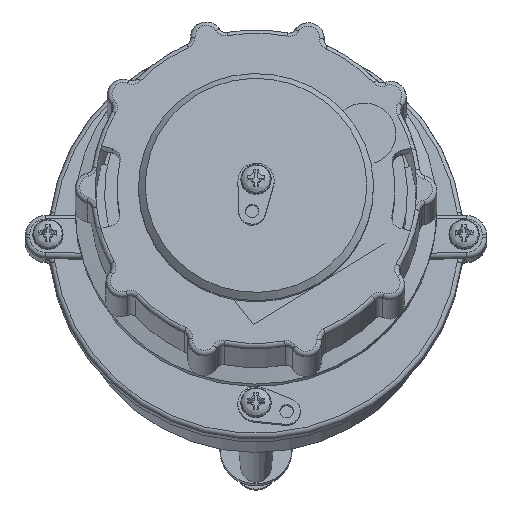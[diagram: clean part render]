
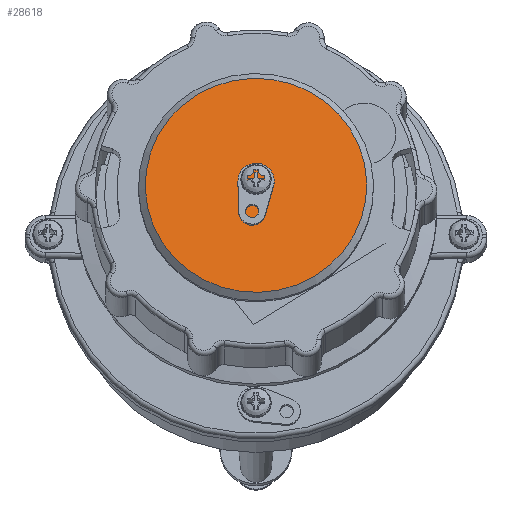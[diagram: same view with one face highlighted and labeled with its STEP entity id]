
A CAD part, front view. The second image highlights one B-rep face of the part: STEP entity #28618.
In plain terms, the highlighted planar face has unit normal (0, -0.966, 0.259).
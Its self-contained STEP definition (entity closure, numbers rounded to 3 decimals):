
#28595=CARTESIAN_POINT('',(-7.639,-53.041,61.953));
#28596=VERTEX_POINT('',#28595);
#28597=CARTESIAN_POINT('',(0.,-47.016,84.438));
#28598=DIRECTION('',(0.,0.966,-0.259));
#28599=DIRECTION('',(0.312,0.246,0.918));
#28600=AXIS2_PLACEMENT_3D('',#28597,#28598,#28599);
#28601=CIRCLE('',#28600,24.5);
#28602=EDGE_CURVE('',#28596,#28596,#28601,.T.);
#28610=CARTESIAN_POINT('',(-4.053,-50.213,72.507));
#28611=DIRECTION('',(0.,-0.966,0.259));
#28612=DIRECTION('',(0.312,0.246,0.918));
#28613=AXIS2_PLACEMENT_3D('',#28610,#28611,#28612);
#28614=PLANE('',#28613);
#28615=ORIENTED_EDGE('',*,*,#28602,.F.);
#28616=EDGE_LOOP('',(#28615));
#28617=FACE_OUTER_BOUND('',#28616,.T.);
#28618=ADVANCED_FACE('',(#28617),#28614,.T.);
